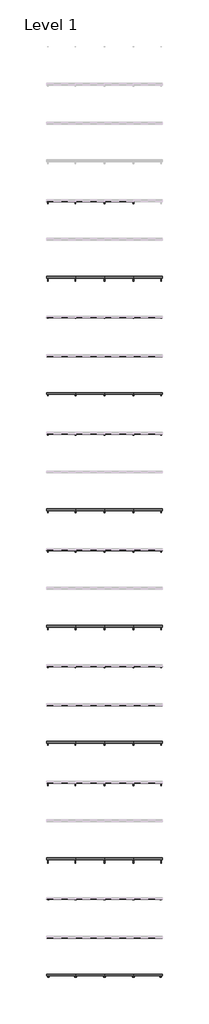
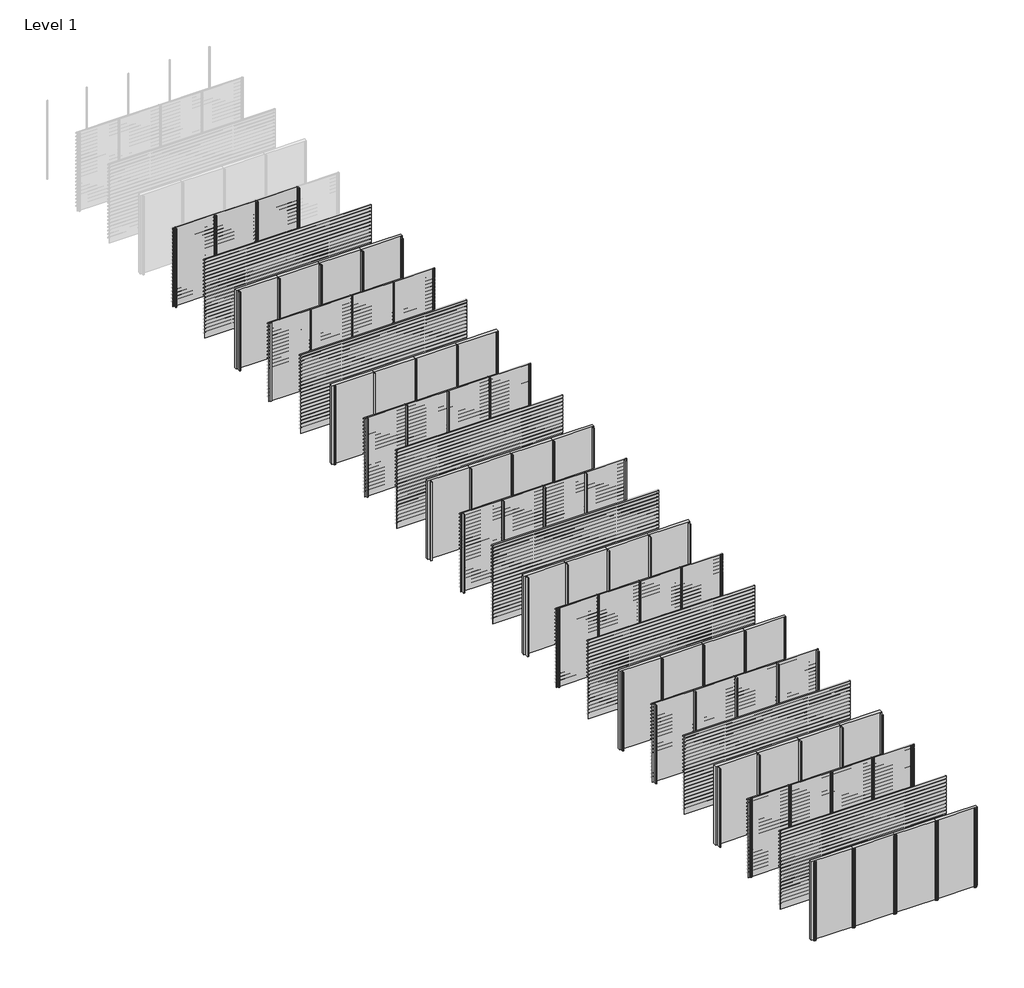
# One storey, part 1 of 57: 69 members, 62 plates.
"""IFC4 building model written with IfcOpenShell, lengths in millimetres."""

from ifc_helpers import new_model, si_unit, origin, origin_with_axes, place, context, project, spatial, polyline, outline, extrude, transform, mapped, element, save
from components import rectangular_mullion_fb497acc, rectangular_mullion_3facce28, rectangular_mullion_6cf2c509, rectangular_mullion_8b77bd57, rectangular_mullion_2c867e25, rectangular_mullion_7803f5c4, rectangular_mullion_82152e2f, rectangular_mullion_bd250e2e, rectangular_mullion_7b49c8f1, rectangular_mullion_2b84ad7e, rectangular_mullion_0fd695e7, rectangular_mullion_9b796d85, rectangular_mullion_dfb17e98, rectangular_mullion_6132f1f1, rectangular_mullion_8f153c19, rectangular_mullion_5b30f3fd, rectangular_mullion_5e0e8e0a, rectangular_mullion_d2d38772, rectangular_mullion_efb80f74, rectangular_mullion_aaa1fb1b, rectangular_mullion_ea9d012c, empty_system_panel_empty_413cb92e

model = new_model("IFC4")

# Units and contexts
model_context = context("Model", 3, world=origin())
ifc_project = project(units=[si_unit("LENGTHUNIT", "METRE", prefix="MILLI")], contexts=[model_context])

# Site, building, storey
site = spatial("IfcSite", under=ifc_project)
building = spatial("IfcBuilding", under=site)
storey = spatial("IfcBuildingStorey", under=building, Name="Level 1", Elevation=0.0)

# Members
placement = place(None, origin())
rectangular_mullion_shape = rectangular_mullion_fb497acc(model_context)
element("IfcMember", 1, ObjectType="Rectangular Mullion : NLRS_21_CWM_drager LD.0995_Storax", at=placement, inside=storey, context=model_context, shape_type="MappedRepresentation", body=[
    mapped(rectangular_mullion_shape, transform((4500.0, -18000.0, 0.0), x_axis=(-1.0, 0.0, 0.0), y_axis=(0.0, 1.0, 0.0), z_axis=(0.0, 0.0, -1.0))),
])
element("IfcMember", 2, ObjectType="Rectangular Mullion : NLRS_21_CWM_drager LD.0995_Storax", at=placement, inside=storey, context=model_context, shape_type="MappedRepresentation", body=[
    mapped(rectangular_mullion_shape, transform((3000.0, -18000.0, 0.0), x_axis=(-1.0, 0.0, 0.0), y_axis=(0.0, 1.0, 0.0), z_axis=(0.0, 0.0, -1.0))),
])
element("IfcMember", 3, ObjectType="Rectangular Mullion : NLRS_21_CWM_drager LD.0995_Storax", at=placement, inside=storey, context=model_context, shape_type="MappedRepresentation", body=[
    mapped(rectangular_mullion_shape, transform((1500.0, -18000.0, 0.0), x_axis=(-1.0, 0.0, 0.0), y_axis=(0.0, 1.0, 0.0), z_axis=(0.0, 0.0, -1.0))),
])
element("IfcMember", 4, ObjectType="Rectangular Mullion : NLRS_21_CWM_drager LD.0995_Storax", at=placement, inside=storey, context=model_context, shape_type="MappedRepresentation", body=[
    mapped(rectangular_mullion_shape, transform((4500.0, -22000.0, 0.0), x_axis=(-1.0, 0.0, 0.0), y_axis=(0.0, 1.0, 0.0), z_axis=(0.0, 0.0, -1.0))),
])
element("IfcMember", 5, ObjectType="Rectangular Mullion : NLRS_21_CWM_drager LD.0995_Storax", at=placement, inside=storey, context=model_context, shape_type="MappedRepresentation", body=[
    mapped(rectangular_mullion_shape, transform((3000.0, -22000.0, 0.0), x_axis=(-1.0, 0.0, 0.0), y_axis=(0.0, 1.0, 0.0), z_axis=(0.0, 0.0, -1.0))),
])
element("IfcMember", 6, ObjectType="Rectangular Mullion : NLRS_21_CWM_drager LD.0995_Storax", at=placement, inside=storey, context=model_context, shape_type="MappedRepresentation", body=[
    mapped(rectangular_mullion_shape, transform((1500.0, -22000.0, 0.0), x_axis=(-1.0, 0.0, 0.0), y_axis=(0.0, 1.0, 0.0), z_axis=(0.0, 0.0, -1.0))),
])
rectangular_mullion_2_shape = rectangular_mullion_3facce28(model_context)
element("IfcMember", 7, ObjectType="Rectangular Mullion : NLRS_21_CWM_drager SD.014_Storax", at=placement, inside=storey, context=model_context, shape_type="MappedRepresentation", body=[
    mapped(rectangular_mullion_2_shape, transform((4500.0, -24000.0, 0.0), x_axis=(-1.0, 0.0, 0.0), y_axis=(0.0, 1.0, 0.0), z_axis=(0.0, 0.0, -1.0))),
])
element("IfcMember", 8, ObjectType="Rectangular Mullion : NLRS_21_CWM_drager SD.014_Storax", at=placement, inside=storey, context=model_context, shape_type="MappedRepresentation", body=[
    mapped(rectangular_mullion_2_shape, transform((3000.0, -24000.0, 0.0), x_axis=(-1.0, 0.0, 0.0), y_axis=(0.0, 1.0, 0.0), z_axis=(0.0, 0.0, -1.0))),
])
element("IfcMember", 9, ObjectType="Rectangular Mullion : NLRS_21_CWM_drager SD.014_Storax", at=placement, inside=storey, context=model_context, shape_type="MappedRepresentation", body=[
    mapped(rectangular_mullion_2_shape, transform((1500.0, -24000.0, 0.0), x_axis=(-1.0, 0.0, 0.0), y_axis=(0.0, 1.0, 0.0), z_axis=(0.0, 0.0, -1.0))),
])
element("IfcMember", 10, ObjectType="Rectangular Mullion : NLRS_21_CWM_drager SD.014_Storax", at=placement, inside=storey, context=model_context, shape_type="MappedRepresentation", body=[
    mapped(rectangular_mullion_2_shape, transform((4500.0, -28000.0, 0.0), x_axis=(-1.0, 0.0, 0.0), y_axis=(0.0, 1.0, 0.0), z_axis=(0.0, 0.0, -1.0))),
])
element("IfcMember", 11, ObjectType="Rectangular Mullion : NLRS_21_CWM_drager SD.014_Storax", at=placement, inside=storey, context=model_context, shape_type="MappedRepresentation", body=[
    mapped(rectangular_mullion_2_shape, transform((3000.0, -28000.0, 0.0), x_axis=(-1.0, 0.0, 0.0), y_axis=(0.0, 1.0, 0.0), z_axis=(0.0, 0.0, -1.0))),
])
element("IfcMember", 12, ObjectType="Rectangular Mullion : NLRS_21_CWM_drager SD.014_Storax", at=placement, inside=storey, context=model_context, shape_type="MappedRepresentation", body=[
    mapped(rectangular_mullion_2_shape, transform((1500.0, -28000.0, 0.0), x_axis=(-1.0, 0.0, 0.0), y_axis=(0.0, 1.0, 0.0), z_axis=(0.0, 0.0, -1.0))),
])
rectangular_mullion_3_shape = rectangular_mullion_6cf2c509(model_context)
element("IfcMember", 13, ObjectType="Rectangular Mullion : NLRS_21_CWM_drager SD.054_Storax", at=placement, inside=storey, context=model_context, shape_type="MappedRepresentation", body=[
    mapped(rectangular_mullion_3_shape, transform((4500.0, -30000.0, 0.0), x_axis=(-1.0, 0.0, 0.0), y_axis=(0.0, 1.0, 0.0), z_axis=(0.0, 0.0, -1.0))),
])
element("IfcMember", 14, ObjectType="Rectangular Mullion : NLRS_21_CWM_drager SD.054_Storax", at=placement, inside=storey, context=model_context, shape_type="MappedRepresentation", body=[
    mapped(rectangular_mullion_3_shape, transform((3000.0, -30000.0, 0.0), x_axis=(-1.0, 0.0, 0.0), y_axis=(0.0, 1.0, 0.0), z_axis=(0.0, 0.0, -1.0))),
])
element("IfcMember", 15, ObjectType="Rectangular Mullion : NLRS_21_CWM_drager SD.054_Storax", at=placement, inside=storey, context=model_context, shape_type="MappedRepresentation", body=[
    mapped(rectangular_mullion_3_shape, transform((1500.0, -30000.0, 0.0), x_axis=(-1.0, 0.0, 0.0), y_axis=(0.0, 1.0, 0.0), z_axis=(0.0, 0.0, -1.0))),
])
element("IfcMember", 16, ObjectType="Rectangular Mullion : NLRS_21_CWM_drager SD.054_Storax", at=placement, inside=storey, context=model_context, shape_type="MappedRepresentation", body=[
    mapped(rectangular_mullion_3_shape, transform((4500.0, -34000.0, 0.0), x_axis=(-1.0, 0.0, 0.0), y_axis=(0.0, 1.0, 0.0), z_axis=(0.0, 0.0, -1.0))),
])
element("IfcMember", 17, ObjectType="Rectangular Mullion : NLRS_21_CWM_drager SD.054_Storax", at=placement, inside=storey, context=model_context, shape_type="MappedRepresentation", body=[
    mapped(rectangular_mullion_3_shape, transform((3000.0, -34000.0, 0.0), x_axis=(-1.0, 0.0, 0.0), y_axis=(0.0, 1.0, 0.0), z_axis=(0.0, 0.0, -1.0))),
])
element("IfcMember", 18, ObjectType="Rectangular Mullion : NLRS_21_CWM_drager SD.054_Storax", at=placement, inside=storey, context=model_context, shape_type="MappedRepresentation", body=[
    mapped(rectangular_mullion_3_shape, transform((1500.0, -34000.0, 0.0), x_axis=(-1.0, 0.0, 0.0), y_axis=(0.0, 1.0, 0.0), z_axis=(0.0, 0.0, -1.0))),
])
rectangular_mullion_4_shape = rectangular_mullion_8b77bd57(model_context)
element("IfcMember", 19, ObjectType="Rectangular Mullion : NLRS_21_CWM_drager SD.100_Storax", at=placement, inside=storey, context=model_context, shape_type="MappedRepresentation", body=[
    mapped(rectangular_mullion_4_shape, transform((4500.0, -36000.0, 0.0), x_axis=(-1.0, 0.0, 0.0), y_axis=(0.0, 1.0, 0.0), z_axis=(0.0, 0.0, -1.0))),
])
element("IfcMember", 20, ObjectType="Rectangular Mullion : NLRS_21_CWM_drager SD.100_Storax", at=placement, inside=storey, context=model_context, shape_type="MappedRepresentation", body=[
    mapped(rectangular_mullion_4_shape, transform((3000.0, -36000.0, 0.0), x_axis=(-1.0, 0.0, 0.0), y_axis=(0.0, 1.0, 0.0), z_axis=(0.0, 0.0, -1.0))),
])
element("IfcMember", 21, ObjectType="Rectangular Mullion : NLRS_21_CWM_drager SD.100_Storax", at=placement, inside=storey, context=model_context, shape_type="MappedRepresentation", body=[
    mapped(rectangular_mullion_4_shape, transform((1500.0, -36000.0, 0.0), x_axis=(-1.0, 0.0, 0.0), y_axis=(0.0, 1.0, 0.0), z_axis=(0.0, 0.0, -1.0))),
])
element("IfcMember", 22, ObjectType="Rectangular Mullion : NLRS_21_CWM_drager SD.100_Storax", at=placement, inside=storey, context=model_context, shape_type="MappedRepresentation", body=[
    mapped(rectangular_mullion_4_shape, transform((4500.0, -40000.0, 0.0), x_axis=(-1.0, 0.0, 0.0), y_axis=(0.0, 1.0, 0.0), z_axis=(0.0, 0.0, -1.0))),
])
element("IfcMember", 23, ObjectType="Rectangular Mullion : NLRS_21_CWM_drager SD.100_Storax", at=placement, inside=storey, context=model_context, shape_type="MappedRepresentation", body=[
    mapped(rectangular_mullion_4_shape, transform((3000.0, -40000.0, 0.0), x_axis=(-1.0, 0.0, 0.0), y_axis=(0.0, 1.0, 0.0), z_axis=(0.0, 0.0, -1.0))),
])
element("IfcMember", 24, ObjectType="Rectangular Mullion : NLRS_21_CWM_drager SD.100_Storax", at=placement, inside=storey, context=model_context, shape_type="MappedRepresentation", body=[
    mapped(rectangular_mullion_4_shape, transform((1500.0, -40000.0, 0.0), x_axis=(-1.0, 0.0, 0.0), y_axis=(0.0, 1.0, 0.0), z_axis=(0.0, 0.0, -1.0))),
])
rectangular_mullion_5_shape = rectangular_mullion_2c867e25(model_context)
element("IfcMember", 25, ObjectType="Rectangular Mullion : NLRS_21_CWM_drager LD.0440_Storax", at=placement, inside=storey, context=model_context, shape_type="MappedRepresentation", body=[
    mapped(rectangular_mullion_5_shape, transform((4500.0, -42000.0, 0.0), x_axis=(-1.0, 0.0, 0.0), y_axis=(0.0, 1.0, 0.0), z_axis=(0.0, 0.0, -1.0))),
])
element("IfcMember", 26, ObjectType="Rectangular Mullion : NLRS_21_CWM_drager LD.0440_Storax", at=placement, inside=storey, context=model_context, shape_type="MappedRepresentation", body=[
    mapped(rectangular_mullion_5_shape, transform((3000.0, -42000.0, 0.0), x_axis=(-1.0, 0.0, 0.0), y_axis=(0.0, 1.0, 0.0), z_axis=(0.0, 0.0, -1.0))),
])
element("IfcMember", 27, ObjectType="Rectangular Mullion : NLRS_21_CWM_drager LD.0440_Storax", at=placement, inside=storey, context=model_context, shape_type="MappedRepresentation", body=[
    mapped(rectangular_mullion_5_shape, transform((1500.0, -42000.0, 0.0), x_axis=(-1.0, 0.0, 0.0), y_axis=(0.0, 1.0, 0.0), z_axis=(0.0, 0.0, -1.0))),
])
element("IfcMember", 28, ObjectType="Rectangular Mullion : NLRS_21_CWM_drager LD.0440_Storax", at=placement, inside=storey, context=model_context, shape_type="MappedRepresentation", body=[
    mapped(rectangular_mullion_5_shape, transform((4500.0, -46000.0, 0.0), x_axis=(-1.0, 0.0, 0.0), y_axis=(0.0, 1.0, 0.0), z_axis=(0.0, 0.0, -1.0))),
])
element("IfcMember", 29, ObjectType="Rectangular Mullion : NLRS_21_CWM_drager LD.0440_Storax", at=placement, inside=storey, context=model_context, shape_type="MappedRepresentation", body=[
    mapped(rectangular_mullion_5_shape, transform((3000.0, -46000.0, 0.0), x_axis=(-1.0, 0.0, 0.0), y_axis=(0.0, 1.0, 0.0), z_axis=(0.0, 0.0, -1.0))),
])
element("IfcMember", 30, ObjectType="Rectangular Mullion : NLRS_21_CWM_drager LD.0440_Storax", at=placement, inside=storey, context=model_context, shape_type="MappedRepresentation", body=[
    mapped(rectangular_mullion_5_shape, transform((1500.0, -46000.0, 0.0), x_axis=(-1.0, 0.0, 0.0), y_axis=(0.0, 1.0, 0.0), z_axis=(0.0, 0.0, -1.0))),
])
rectangular_mullion_6_shape = rectangular_mullion_7803f5c4(model_context)
element("IfcMember", 31, ObjectType="Rectangular Mullion : NLRS_21_CWM_drager LD.1250_Storax", at=placement, inside=storey, context=model_context, shape_type="MappedRepresentation", body=[
    mapped(rectangular_mullion_6_shape, transform((4500.0, -48000.0, 0.0), x_axis=(-1.0, 0.0, 0.0), y_axis=(0.0, 1.0, 0.0), z_axis=(0.0, 0.0, -1.0))),
])
element("IfcMember", 32, ObjectType="Rectangular Mullion : NLRS_21_CWM_drager LD.1250_Storax", at=placement, inside=storey, context=model_context, shape_type="MappedRepresentation", body=[
    mapped(rectangular_mullion_6_shape, transform((3000.0, -48000.0, 0.0), x_axis=(-1.0, 0.0, 0.0), y_axis=(0.0, 1.0, 0.0), z_axis=(0.0, 0.0, -1.0))),
])
element("IfcMember", 33, ObjectType="Rectangular Mullion : NLRS_21_CWM_drager LD.1250_Storax", at=placement, inside=storey, context=model_context, shape_type="MappedRepresentation", body=[
    mapped(rectangular_mullion_6_shape, transform((1500.0, -48000.0, 0.0), x_axis=(-1.0, 0.0, 0.0), y_axis=(0.0, 1.0, 0.0), z_axis=(0.0, 0.0, -1.0))),
])
element("IfcMember", 34, ObjectType="Rectangular Mullion : NLRS_21_CWM_drager LD.1250_Storax", at=placement, inside=storey, context=model_context, shape_type="MappedRepresentation", body=[
    mapped(rectangular_mullion_6_shape, transform((4500.0, -52000.0, 0.0), x_axis=(-1.0, 0.0, 0.0), y_axis=(0.0, 1.0, 0.0), z_axis=(0.0, 0.0, -1.0))),
])
element("IfcMember", 35, ObjectType="Rectangular Mullion : NLRS_21_CWM_drager LD.1250_Storax", at=placement, inside=storey, context=model_context, shape_type="MappedRepresentation", body=[
    mapped(rectangular_mullion_6_shape, transform((3000.0, -52000.0, 0.0), x_axis=(-1.0, 0.0, 0.0), y_axis=(0.0, 1.0, 0.0), z_axis=(0.0, 0.0, -1.0))),
])
element("IfcMember", 36, ObjectType="Rectangular Mullion : NLRS_21_CWM_drager LD.1250_Storax", at=placement, inside=storey, context=model_context, shape_type="MappedRepresentation", body=[
    mapped(rectangular_mullion_6_shape, transform((1500.0, -52000.0, 0.0), x_axis=(-1.0, 0.0, 0.0), y_axis=(0.0, 1.0, 0.0), z_axis=(0.0, 0.0, -1.0))),
])
rectangular_mullion_7_shape = rectangular_mullion_82152e2f(model_context)
element("IfcMember", 37, ObjectType="Rectangular Mullion : NLRS_21_CWM_drager LD.0240_Storax", at=placement, inside=storey, context=model_context, shape_type="MappedRepresentation", body=[
    mapped(rectangular_mullion_7_shape, transform((4500.0, -54000.0, 0.0), x_axis=(-1.0, 0.0, 0.0), y_axis=(0.0, 1.0, 0.0), z_axis=(0.0, 0.0, -1.0))),
])
element("IfcMember", 38, ObjectType="Rectangular Mullion : NLRS_21_CWM_drager LD.0240_Storax", at=placement, inside=storey, context=model_context, shape_type="MappedRepresentation", body=[
    mapped(rectangular_mullion_7_shape, transform((3000.0, -54000.0, 0.0), x_axis=(-1.0, 0.0, 0.0), y_axis=(0.0, 1.0, 0.0), z_axis=(0.0, 0.0, -1.0))),
])
element("IfcMember", 39, ObjectType="Rectangular Mullion : NLRS_21_CWM_drager LD.0240_Storax", at=placement, inside=storey, context=model_context, shape_type="MappedRepresentation", body=[
    mapped(rectangular_mullion_7_shape, transform((1500.0, -54000.0, 0.0), x_axis=(-1.0, 0.0, 0.0), y_axis=(0.0, 1.0, 0.0), z_axis=(0.0, 0.0, -1.0))),
])
element("IfcMember", 40, ObjectType="Rectangular Mullion : NLRS_21_CWM_drager LD.0240_Storax", at=placement, inside=storey, context=model_context, shape_type="MappedRepresentation", body=[
    mapped(rectangular_mullion_7_shape, transform((4500.0, -58000.0, 0.0), x_axis=(-1.0, 0.0, 0.0), y_axis=(0.0, 1.0, 0.0), z_axis=(0.0, 0.0, -1.0))),
])
element("IfcMember", 41, ObjectType="Rectangular Mullion : NLRS_21_CWM_drager LD.0240_Storax", at=placement, inside=storey, context=model_context, shape_type="MappedRepresentation", body=[
    mapped(rectangular_mullion_7_shape, transform((3000.0, -58000.0, 0.0), x_axis=(-1.0, 0.0, 0.0), y_axis=(0.0, 1.0, 0.0), z_axis=(0.0, 0.0, -1.0))),
])
element("IfcMember", 42, ObjectType="Rectangular Mullion : NLRS_21_CWM_drager LD.0240_Storax", at=placement, inside=storey, context=model_context, shape_type="MappedRepresentation", body=[
    mapped(rectangular_mullion_7_shape, transform((1500.0, -58000.0, 0.0), x_axis=(-1.0, 0.0, 0.0), y_axis=(0.0, 1.0, 0.0), z_axis=(0.0, 0.0, -1.0))),
])
rectangular_mullion_8_shape = rectangular_mullion_bd250e2e(model_context)
element("IfcMember", 43, ObjectType="Rectangular Mullion : NLRS_21_CWM_drager LD.0995 - links_Storax", at=placement, inside=storey, context=model_context, shape_type="MappedRepresentation", body=[
    mapped(rectangular_mullion_8_shape, transform((0.0, -18000.0, 0.0), x_axis=(-1.0, 0.0, 0.0), y_axis=(0.0, 1.0, 0.0), z_axis=(0.0, 0.0, -1.0))),
])
element("IfcMember", 44, ObjectType="Rectangular Mullion : NLRS_21_CWM_drager LD.0995 - links_Storax", at=placement, inside=storey, context=model_context, shape_type="MappedRepresentation", body=[
    mapped(rectangular_mullion_8_shape, transform((0.0, -22000.0, 0.0), x_axis=(-1.0, 0.0, 0.0), y_axis=(0.0, 1.0, 0.0), z_axis=(0.0, 0.0, -1.0))),
])
rectangular_mullion_9_shape = rectangular_mullion_7b49c8f1(model_context)
element("IfcMember", 45, ObjectType="Rectangular Mullion : NLRS_21_CWM_drager LD.0995 - rechts_Storax", at=placement, inside=storey, context=model_context, shape_type="MappedRepresentation", body=[
    mapped(rectangular_mullion_9_shape, transform((6000.0, -22000.0, 3000.0), x_axis=(1.0, 0.0, 0.0), y_axis=(0.0, 1.0, 0.0), z_axis=(0.0, 0.0, 1.0))),
])
rectangular_mullion_10_shape = rectangular_mullion_2b84ad7e(model_context)
element("IfcMember", 46, ObjectType="Rectangular Mullion : NLRS_21_CWM_drager SD.014 - links_Storax", at=placement, inside=storey, context=model_context, shape_type="MappedRepresentation", body=[
    mapped(rectangular_mullion_10_shape, transform((0.0, -24000.0, 0.0), x_axis=(-1.0, 0.0, 0.0), y_axis=(0.0, 1.0, 0.0), z_axis=(0.0, 0.0, -1.0))),
])
element("IfcMember", 47, ObjectType="Rectangular Mullion : NLRS_21_CWM_drager SD.014 - links_Storax", at=placement, inside=storey, context=model_context, shape_type="MappedRepresentation", body=[
    mapped(rectangular_mullion_10_shape, transform((0.0, -28000.0, 0.0), x_axis=(-1.0, 0.0, 0.0), y_axis=(0.0, 1.0, 0.0), z_axis=(0.0, 0.0, -1.0))),
])
rectangular_mullion_11_shape = rectangular_mullion_0fd695e7(model_context)
element("IfcMember", 48, ObjectType="Rectangular Mullion : NLRS_21_CWM_drager SD.014 - rechts_Storax", at=placement, inside=storey, context=model_context, shape_type="MappedRepresentation", body=[
    mapped(rectangular_mullion_11_shape, transform((6000.0, -24000.0, 3000.0), x_axis=(1.0, 0.0, 0.0), y_axis=(0.0, 1.0, 0.0), z_axis=(0.0, 0.0, 1.0))),
])
element("IfcMember", 49, ObjectType="Rectangular Mullion : NLRS_21_CWM_drager SD.014 - rechts_Storax", at=placement, inside=storey, context=model_context, shape_type="MappedRepresentation", body=[
    mapped(rectangular_mullion_11_shape, transform((6000.0, -28000.0, 3000.0), x_axis=(1.0, 0.0, 0.0), y_axis=(0.0, 1.0, 0.0), z_axis=(0.0, 0.0, 1.0))),
])
rectangular_mullion_12_shape = rectangular_mullion_9b796d85(model_context)
element("IfcMember", 50, ObjectType="Rectangular Mullion : NLRS_21_CWM_drager SD.054 - links_Storax", at=placement, inside=storey, context=model_context, shape_type="MappedRepresentation", body=[
    mapped(rectangular_mullion_12_shape, transform((0.0, -30000.0, 0.0), x_axis=(-1.0, 0.0, 0.0), y_axis=(0.0, 1.0, 0.0), z_axis=(0.0, 0.0, -1.0))),
])
element("IfcMember", 51, ObjectType="Rectangular Mullion : NLRS_21_CWM_drager SD.054 - links_Storax", at=placement, inside=storey, context=model_context, shape_type="MappedRepresentation", body=[
    mapped(rectangular_mullion_12_shape, transform((0.0, -34000.0, 0.0), x_axis=(-1.0, 0.0, 0.0), y_axis=(0.0, 1.0, 0.0), z_axis=(0.0, 0.0, -1.0))),
])
rectangular_mullion_13_shape = rectangular_mullion_dfb17e98(model_context)
element("IfcMember", 52, ObjectType="Rectangular Mullion : NLRS_21_CWM_drager SD.054 - rechts_Storax", at=placement, inside=storey, context=model_context, shape_type="MappedRepresentation", body=[
    mapped(rectangular_mullion_13_shape, transform((6000.0, -30000.0, 3000.0), x_axis=(1.0, 0.0, 0.0), y_axis=(0.0, 1.0, 0.0), z_axis=(0.0, 0.0, 1.0))),
])
element("IfcMember", 53, ObjectType="Rectangular Mullion : NLRS_21_CWM_drager SD.054 - rechts_Storax", at=placement, inside=storey, context=model_context, shape_type="MappedRepresentation", body=[
    mapped(rectangular_mullion_13_shape, transform((6000.0, -34000.0, 3000.0), x_axis=(1.0, 0.0, 0.0), y_axis=(0.0, 1.0, 0.0), z_axis=(0.0, 0.0, 1.0))),
])
rectangular_mullion_14_shape = rectangular_mullion_6132f1f1(model_context)
element("IfcMember", 54, ObjectType="Rectangular Mullion : NLRS_21_CWM_drager SD.100 - links_Storax", at=placement, inside=storey, context=model_context, shape_type="MappedRepresentation", body=[
    mapped(rectangular_mullion_14_shape, transform((0.0, -36000.0, 0.0), x_axis=(-1.0, 0.0, 0.0), y_axis=(0.0, 1.0, 0.0), z_axis=(0.0, 0.0, -1.0))),
])
element("IfcMember", 55, ObjectType="Rectangular Mullion : NLRS_21_CWM_drager SD.100 - links_Storax", at=placement, inside=storey, context=model_context, shape_type="MappedRepresentation", body=[
    mapped(rectangular_mullion_14_shape, transform((0.0, -40000.0, 0.0), x_axis=(-1.0, 0.0, 0.0), y_axis=(0.0, 1.0, 0.0), z_axis=(0.0, 0.0, -1.0))),
])
rectangular_mullion_15_shape = rectangular_mullion_8f153c19(model_context)
element("IfcMember", 56, ObjectType="Rectangular Mullion : NLRS_21_CWM_drager SD.100 - rechts_Storax", at=placement, inside=storey, context=model_context, shape_type="MappedRepresentation", body=[
    mapped(rectangular_mullion_15_shape, transform((6000.0, -36000.0, 3000.0), x_axis=(1.0, 0.0, 0.0), y_axis=(0.0, 1.0, 0.0), z_axis=(0.0, 0.0, 1.0))),
])
element("IfcMember", 57, ObjectType="Rectangular Mullion : NLRS_21_CWM_drager SD.100 - rechts_Storax", at=placement, inside=storey, context=model_context, shape_type="MappedRepresentation", body=[
    mapped(rectangular_mullion_15_shape, transform((6000.0, -40000.0, 3000.0), x_axis=(1.0, 0.0, 0.0), y_axis=(0.0, 1.0, 0.0), z_axis=(0.0, 0.0, 1.0))),
])
rectangular_mullion_16_shape = rectangular_mullion_5b30f3fd(model_context)
element("IfcMember", 58, ObjectType="Rectangular Mullion : NLRS_21_CWM_drager LD.0440 - links_Storax", at=placement, inside=storey, context=model_context, shape_type="MappedRepresentation", body=[
    mapped(rectangular_mullion_16_shape, transform((0.0, -42000.0, 0.0), x_axis=(-1.0, 0.0, 0.0), y_axis=(0.0, 1.0, 0.0), z_axis=(0.0, 0.0, -1.0))),
])
element("IfcMember", 59, ObjectType="Rectangular Mullion : NLRS_21_CWM_drager LD.0440 - links_Storax", at=placement, inside=storey, context=model_context, shape_type="MappedRepresentation", body=[
    mapped(rectangular_mullion_16_shape, transform((0.0, -46000.0, 0.0), x_axis=(-1.0, 0.0, 0.0), y_axis=(0.0, 1.0, 0.0), z_axis=(0.0, 0.0, -1.0))),
])
rectangular_mullion_17_shape = rectangular_mullion_5e0e8e0a(model_context)
element("IfcMember", 60, ObjectType="Rectangular Mullion : NLRS_21_CWM_drager LD.0440 - rechts_Storax", at=placement, inside=storey, context=model_context, shape_type="MappedRepresentation", body=[
    mapped(rectangular_mullion_17_shape, transform((6000.0, -42000.0, 3000.0), x_axis=(1.0, 0.0, 0.0), y_axis=(0.0, 1.0, 0.0), z_axis=(0.0, 0.0, 1.0))),
])
element("IfcMember", 61, ObjectType="Rectangular Mullion : NLRS_21_CWM_drager LD.0440 - rechts_Storax", at=placement, inside=storey, context=model_context, shape_type="MappedRepresentation", body=[
    mapped(rectangular_mullion_17_shape, transform((6000.0, -46000.0, 3000.0), x_axis=(1.0, 0.0, 0.0), y_axis=(0.0, 1.0, 0.0), z_axis=(0.0, 0.0, 1.0))),
])
rectangular_mullion_18_shape = rectangular_mullion_d2d38772(model_context)
element("IfcMember", 62, ObjectType="Rectangular Mullion : NLRS_21_CWM_drager LD.1250 - links_Storax", at=placement, inside=storey, context=model_context, shape_type="MappedRepresentation", body=[
    mapped(rectangular_mullion_18_shape, transform((0.0, -48000.0, 0.0), x_axis=(-1.0, 0.0, 0.0), y_axis=(0.0, 1.0, 0.0), z_axis=(0.0, 0.0, -1.0))),
])
element("IfcMember", 63, ObjectType="Rectangular Mullion : NLRS_21_CWM_drager LD.1250 - links_Storax", at=placement, inside=storey, context=model_context, shape_type="MappedRepresentation", body=[
    mapped(rectangular_mullion_18_shape, transform((0.0, -52000.0, 0.0), x_axis=(-1.0, 0.0, 0.0), y_axis=(0.0, 1.0, 0.0), z_axis=(0.0, 0.0, -1.0))),
])
rectangular_mullion_19_shape = rectangular_mullion_efb80f74(model_context)
element("IfcMember", 64, ObjectType="Rectangular Mullion : NLRS_21_CWM_drager LD.1250 - rechts_Storax", at=placement, inside=storey, context=model_context, shape_type="MappedRepresentation", body=[
    mapped(rectangular_mullion_19_shape, transform((6000.0, -48000.0, 3000.0), x_axis=(1.0, 0.0, 0.0), y_axis=(0.0, 1.0, 0.0), z_axis=(0.0, 0.0, 1.0))),
])
element("IfcMember", 65, ObjectType="Rectangular Mullion : NLRS_21_CWM_drager LD.1250 - rechts_Storax", at=placement, inside=storey, context=model_context, shape_type="MappedRepresentation", body=[
    mapped(rectangular_mullion_19_shape, transform((6000.0, -52000.0, 3000.0), x_axis=(1.0, 0.0, 0.0), y_axis=(0.0, 1.0, 0.0), z_axis=(0.0, 0.0, 1.0))),
])
rectangular_mullion_20_shape = rectangular_mullion_aaa1fb1b(model_context)
element("IfcMember", 66, ObjectType="Rectangular Mullion : NLRS_21_CWM_drager LD.0240 - links_Storax", at=placement, inside=storey, context=model_context, shape_type="MappedRepresentation", body=[
    mapped(rectangular_mullion_20_shape, transform((0.0, -54000.0, 0.0), x_axis=(-1.0, 0.0, 0.0), y_axis=(0.0, 1.0, 0.0), z_axis=(0.0, 0.0, -1.0))),
])
element("IfcMember", 67, ObjectType="Rectangular Mullion : NLRS_21_CWM_drager LD.0240 - links_Storax", at=placement, inside=storey, context=model_context, shape_type="MappedRepresentation", body=[
    mapped(rectangular_mullion_20_shape, transform((0.0, -58000.0, 0.0), x_axis=(-1.0, 0.0, 0.0), y_axis=(0.0, 1.0, 0.0), z_axis=(0.0, 0.0, -1.0))),
])
rectangular_mullion_21_shape = rectangular_mullion_ea9d012c(model_context)
element("IfcMember", 68, ObjectType="Rectangular Mullion : NLRS_21_CWM_drager LD.0240 - rechts_Storax", at=placement, inside=storey, context=model_context, shape_type="MappedRepresentation", body=[
    mapped(rectangular_mullion_21_shape, transform((6000.0, -54000.0, 3000.0), x_axis=(1.0, 0.0, 0.0), y_axis=(0.0, 1.0, 0.0), z_axis=(0.0, 0.0, 1.0))),
])
element("IfcMember", 69, ObjectType="Rectangular Mullion : NLRS_21_CWM_drager LD.0240 - rechts_Storax", at=placement, inside=storey, context=model_context, shape_type="MappedRepresentation", body=[
    mapped(rectangular_mullion_21_shape, transform((6000.0, -58000.0, 3000.0), x_axis=(1.0, 0.0, 0.0), y_axis=(0.0, 1.0, 0.0), z_axis=(0.0, 0.0, 1.0))),
])

# Plates
element("IfcPlate", 70, ObjectType="NLRS_21_WA_lamellenwand Linius - SE.130_Storax", at=placement, inside=storey, context=model_context, shape_type="SweptSolid", body=[
    extrude(outline(polyline([(0.0, -17999.0), (1500.0, -17999.0), (1500.0, -18001.0), (0.0, -18001.0), (0.0, -17999.0)])), origin_with_axes(), (0.0, 0.0, 1.0), 3000.0),
])
element("IfcPlate", 71, ObjectType="NLRS_21_WA_lamellenwand Linius - SE.130_Storax", at=placement, inside=storey, context=model_context, shape_type="SweptSolid", body=[
    extrude(outline(polyline([(1500.0, -17999.0), (3000.0, -17999.0), (3000.0, -18001.0), (1500.0, -18001.0), (1500.0, -17999.0)])), origin_with_axes(), (0.0, 0.0, 1.0), 3000.0),
])
element("IfcPlate", 72, ObjectType="NLRS_21_WA_lamellenwand Linius - SE.130_Storax", at=placement, inside=storey, context=model_context, shape_type="SweptSolid", body=[
    extrude(outline(polyline([(3000.0, -17999.0), (4500.0, -17999.0), (4500.0, -18001.0), (3000.0, -18001.0), (3000.0, -17999.0)])), origin_with_axes(), (0.0, 0.0, 1.0), 3000.0),
])
element("IfcPlate", 73, ObjectType="NLRS_21_WA_lamellenwand Linius - SE.130_Storax", at=placement, inside=storey, context=model_context, shape_type="SweptSolid", body=[
    extrude(outline(polyline([(0.0, -19999.0), (6000.0, -19999.0), (6000.0, -20001.0), (0.0, -20001.0), (0.0, -19999.0)])), origin_with_axes(), (0.0, 0.0, 1.0), 3000.0),
])
element("IfcPlate", 74, ObjectType="NLRS_21_WA_lamellenwand Linius - SE.130_Storax", at=placement, inside=storey, context=model_context, shape_type="SweptSolid", body=[
    extrude(outline(polyline([(0.0, -23999.0), (1500.0, -23999.0), (1500.0, -24001.0), (0.0, -24001.0), (0.0, -23999.0)])), origin_with_axes(), (0.0, 0.0, 1.0), 3000.0),
])
element("IfcPlate", 75, ObjectType="NLRS_21_WA_lamellenwand Linius - SE.130_Storax", at=placement, inside=storey, context=model_context, shape_type="SweptSolid", body=[
    extrude(outline(polyline([(1500.0, -23999.0), (3000.0, -23999.0), (3000.0, -24001.0), (1500.0, -24001.0), (1500.0, -23999.0)])), origin_with_axes(), (0.0, 0.0, 1.0), 3000.0),
])
element("IfcPlate", 76, ObjectType="NLRS_21_WA_lamellenwand Linius - SE.130_Storax", at=placement, inside=storey, context=model_context, shape_type="SweptSolid", body=[
    extrude(outline(polyline([(3000.0, -23999.0), (4500.0, -23999.0), (4500.0, -24001.0), (3000.0, -24001.0), (3000.0, -23999.0)])), origin_with_axes(), (0.0, 0.0, 1.0), 3000.0),
])
element("IfcPlate", 77, ObjectType="NLRS_21_WA_lamellenwand Linius - SE.130_Storax", at=placement, inside=storey, context=model_context, shape_type="SweptSolid", body=[
    extrude(outline(polyline([(4500.0, -23999.0), (6000.0, -23999.0), (6000.0, -24001.0), (4500.0, -24001.0), (4500.0, -23999.0)])), origin_with_axes(), (0.0, 0.0, 1.0), 3000.0),
])
element("IfcPlate", 78, ObjectType="NLRS_21_WA_lamellenwand Linius - SE.130_Storax", at=placement, inside=storey, context=model_context, shape_type="SweptSolid", body=[
    extrude(outline(polyline([(0.0, -25999.0), (6000.0, -25999.0), (6000.0, -26001.0), (0.0, -26001.0), (0.0, -25999.0)])), origin_with_axes(), (0.0, 0.0, 1.0), 3000.0),
])
element("IfcPlate", 79, ObjectType="NLRS_21_WA_lamellenwand Linius - SE.130_Storax", at=placement, inside=storey, context=model_context, shape_type="SweptSolid", body=[
    extrude(outline(polyline([(0.0, -29999.0), (1500.0, -29999.0), (1500.0, -30001.0), (0.0, -30001.0), (0.0, -29999.0)])), origin_with_axes(), (0.0, 0.0, 1.0), 3000.0),
])
element("IfcPlate", 80, ObjectType="NLRS_21_WA_lamellenwand Linius - SE.130_Storax", at=placement, inside=storey, context=model_context, shape_type="SweptSolid", body=[
    extrude(outline(polyline([(1500.0, -29999.0), (3000.0, -29999.0), (3000.0, -30001.0), (1500.0, -30001.0), (1500.0, -29999.0)])), origin_with_axes(), (0.0, 0.0, 1.0), 3000.0),
])
element("IfcPlate", 81, ObjectType="NLRS_21_WA_lamellenwand Linius - SE.130_Storax", at=placement, inside=storey, context=model_context, shape_type="SweptSolid", body=[
    extrude(outline(polyline([(3000.0, -29999.0), (4500.0, -29999.0), (4500.0, -30001.0), (3000.0, -30001.0), (3000.0, -29999.0)])), origin_with_axes(), (0.0, 0.0, 1.0), 3000.0),
])
element("IfcPlate", 82, ObjectType="NLRS_21_WA_lamellenwand Linius - SE.130_Storax", at=placement, inside=storey, context=model_context, shape_type="SweptSolid", body=[
    extrude(outline(polyline([(4500.0, -29999.0), (6000.0, -29999.0), (6000.0, -30001.0), (4500.0, -30001.0), (4500.0, -29999.0)])), origin_with_axes(), (0.0, 0.0, 1.0), 3000.0),
])
element("IfcPlate", 83, ObjectType="NLRS_21_WA_lamellenwand Linius - SE.130_Storax", at=placement, inside=storey, context=model_context, shape_type="SweptSolid", body=[
    extrude(outline(polyline([(0.0, -31999.0), (6000.0, -31999.0), (6000.0, -32001.0), (0.0, -32001.0), (0.0, -31999.0)])), origin_with_axes(), (0.0, 0.0, 1.0), 3000.0),
])
element("IfcPlate", 84, ObjectType="NLRS_21_WA_lamellenwand Linius - SE.130_Storax", at=placement, inside=storey, context=model_context, shape_type="SweptSolid", body=[
    extrude(outline(polyline([(0.0, -35999.0), (1500.0, -35999.0), (1500.0, -36001.0), (0.0, -36001.0), (0.0, -35999.0)])), origin_with_axes(), (0.0, 0.0, 1.0), 3000.0),
])
element("IfcPlate", 85, ObjectType="NLRS_21_WA_lamellenwand Linius - SE.130_Storax", at=placement, inside=storey, context=model_context, shape_type="SweptSolid", body=[
    extrude(outline(polyline([(1500.0, -35999.0), (3000.0, -35999.0), (3000.0, -36001.0), (1500.0, -36001.0), (1500.0, -35999.0)])), origin_with_axes(), (0.0, 0.0, 1.0), 3000.0),
])
element("IfcPlate", 86, ObjectType="NLRS_21_WA_lamellenwand Linius - SE.130_Storax", at=placement, inside=storey, context=model_context, shape_type="SweptSolid", body=[
    extrude(outline(polyline([(3000.0, -35999.0), (4500.0, -35999.0), (4500.0, -36001.0), (3000.0, -36001.0), (3000.0, -35999.0)])), origin_with_axes(), (0.0, 0.0, 1.0), 3000.0),
])
element("IfcPlate", 87, ObjectType="NLRS_21_WA_lamellenwand Linius - SE.130_Storax", at=placement, inside=storey, context=model_context, shape_type="SweptSolid", body=[
    extrude(outline(polyline([(4500.0, -35999.0), (6000.0, -35999.0), (6000.0, -36001.0), (4500.0, -36001.0), (4500.0, -35999.0)])), origin_with_axes(), (0.0, 0.0, 1.0), 3000.0),
])
element("IfcPlate", 88, ObjectType="NLRS_21_WA_lamellenwand Linius - SE.130_Storax", at=placement, inside=storey, context=model_context, shape_type="SweptSolid", body=[
    extrude(outline(polyline([(0.0, -37999.0), (6000.0, -37999.0), (6000.0, -38001.0), (0.0, -38001.0), (0.0, -37999.0)])), origin_with_axes(), (0.0, 0.0, 1.0), 3000.0),
])
element("IfcPlate", 89, ObjectType="NLRS_21_WA_lamellenwand Linius - SE.130_Storax", at=placement, inside=storey, context=model_context, shape_type="SweptSolid", body=[
    extrude(outline(polyline([(0.0, -41999.0), (1500.0, -41999.0), (1500.0, -42001.0), (0.0, -42001.0), (0.0, -41999.0)])), origin_with_axes(), (0.0, 0.0, 1.0), 3000.0),
])
element("IfcPlate", 90, ObjectType="NLRS_21_WA_lamellenwand Linius - SE.130_Storax", at=placement, inside=storey, context=model_context, shape_type="SweptSolid", body=[
    extrude(outline(polyline([(1500.0, -41999.0), (3000.0, -41999.0), (3000.0, -42001.0), (1500.0, -42001.0), (1500.0, -41999.0)])), origin_with_axes(), (0.0, 0.0, 1.0), 3000.0),
])
element("IfcPlate", 91, ObjectType="NLRS_21_WA_lamellenwand Linius - SE.130_Storax", at=placement, inside=storey, context=model_context, shape_type="SweptSolid", body=[
    extrude(outline(polyline([(3000.0, -41999.0), (4500.0, -41999.0), (4500.0, -42001.0), (3000.0, -42001.0), (3000.0, -41999.0)])), origin_with_axes(), (0.0, 0.0, 1.0), 3000.0),
])
element("IfcPlate", 92, ObjectType="NLRS_21_WA_lamellenwand Linius - SE.130_Storax", at=placement, inside=storey, context=model_context, shape_type="SweptSolid", body=[
    extrude(outline(polyline([(4500.0, -41999.0), (6000.0, -41999.0), (6000.0, -42001.0), (4500.0, -42001.0), (4500.0, -41999.0)])), origin_with_axes(), (0.0, 0.0, 1.0), 3000.0),
])
element("IfcPlate", 93, ObjectType="NLRS_21_WA_lamellenwand Linius - SE.130_Storax", at=placement, inside=storey, context=model_context, shape_type="SweptSolid", body=[
    extrude(outline(polyline([(0.0, -43999.0), (6000.0, -43999.0), (6000.0, -44001.0), (0.0, -44001.0), (0.0, -43999.0)])), origin_with_axes(), (0.0, 0.0, 1.0), 3000.0),
])
element("IfcPlate", 94, ObjectType="NLRS_21_WA_lamellenwand Linius - SE.130_Storax", at=placement, inside=storey, context=model_context, shape_type="SweptSolid", body=[
    extrude(outline(polyline([(0.0, -47999.0), (1500.0, -47999.0), (1500.0, -48001.0), (0.0, -48001.0), (0.0, -47999.0)])), origin_with_axes(), (0.0, 0.0, 1.0), 3000.0),
])
element("IfcPlate", 95, ObjectType="NLRS_21_WA_lamellenwand Linius - SE.130_Storax", at=placement, inside=storey, context=model_context, shape_type="SweptSolid", body=[
    extrude(outline(polyline([(1500.0, -47999.0), (3000.0, -47999.0), (3000.0, -48001.0), (1500.0, -48001.0), (1500.0, -47999.0)])), origin_with_axes(), (0.0, 0.0, 1.0), 3000.0),
])
element("IfcPlate", 96, ObjectType="NLRS_21_WA_lamellenwand Linius - SE.130_Storax", at=placement, inside=storey, context=model_context, shape_type="SweptSolid", body=[
    extrude(outline(polyline([(3000.0, -47999.0), (4500.0, -47999.0), (4500.0, -48001.0), (3000.0, -48001.0), (3000.0, -47999.0)])), origin_with_axes(), (0.0, 0.0, 1.0), 3000.0),
])
element("IfcPlate", 97, ObjectType="NLRS_21_WA_lamellenwand Linius - SE.130_Storax", at=placement, inside=storey, context=model_context, shape_type="SweptSolid", body=[
    extrude(outline(polyline([(4500.0, -47999.0), (6000.0, -47999.0), (6000.0, -48001.0), (4500.0, -48001.0), (4500.0, -47999.0)])), origin_with_axes(), (0.0, 0.0, 1.0), 3000.0),
])
element("IfcPlate", 98, ObjectType="NLRS_21_WA_lamellenwand Linius - SE.130_Storax", at=placement, inside=storey, context=model_context, shape_type="SweptSolid", body=[
    extrude(outline(polyline([(0.0, -49999.0), (6000.0, -49999.0), (6000.0, -50001.0), (0.0, -50001.0), (0.0, -49999.0)])), origin_with_axes(), (0.0, 0.0, 1.0), 3000.0),
])
element("IfcPlate", 99, ObjectType="NLRS_21_WA_lamellenwand Linius - SE.130_Storax", at=placement, inside=storey, context=model_context, shape_type="SweptSolid", body=[
    extrude(outline(polyline([(0.0, -53999.0), (1500.0, -53999.0), (1500.0, -54001.0), (0.0, -54001.0), (0.0, -53999.0)])), origin_with_axes(), (0.0, 0.0, 1.0), 3000.0),
])
element("IfcPlate", 100, ObjectType="NLRS_21_WA_lamellenwand Linius - SE.130_Storax", at=placement, inside=storey, context=model_context, shape_type="SweptSolid", body=[
    extrude(outline(polyline([(1500.0, -53999.0), (3000.0, -53999.0), (3000.0, -54001.0), (1500.0, -54001.0), (1500.0, -53999.0)])), origin_with_axes(), (0.0, 0.0, 1.0), 3000.0),
])
element("IfcPlate", 101, ObjectType="NLRS_21_WA_lamellenwand Linius - SE.130_Storax", at=placement, inside=storey, context=model_context, shape_type="SweptSolid", body=[
    extrude(outline(polyline([(3000.0, -53999.0), (4500.0, -53999.0), (4500.0, -54001.0), (3000.0, -54001.0), (3000.0, -53999.0)])), origin_with_axes(), (0.0, 0.0, 1.0), 3000.0),
])
element("IfcPlate", 102, ObjectType="NLRS_21_WA_lamellenwand Linius - SE.130_Storax", at=placement, inside=storey, context=model_context, shape_type="SweptSolid", body=[
    extrude(outline(polyline([(4500.0, -53999.0), (6000.0, -53999.0), (6000.0, -54001.0), (4500.0, -54001.0), (4500.0, -53999.0)])), origin_with_axes(), (0.0, 0.0, 1.0), 3000.0),
])
element("IfcPlate", 103, ObjectType="NLRS_21_WA_lamellenwand Linius - SE.130_Storax", at=placement, inside=storey, context=model_context, shape_type="SweptSolid", body=[
    extrude(outline(polyline([(0.0, -55999.0), (6000.0, -55999.0), (6000.0, -56001.0), (0.0, -56001.0), (0.0, -55999.0)])), origin_with_axes(), (0.0, 0.0, 1.0), 3000.0),
])
empty_system_panel_empty_shape = empty_system_panel_empty_413cb92e(model_context)
element("IfcPlate", 104, ObjectType="Empty System Panel : Empty", at=placement, inside=storey, context=model_context, shape_type="MappedRepresentation", body=[
    mapped(empty_system_panel_empty_shape, transform((5250.0, -22000.0, 0.0), x_axis=(-1.0, 0.0, 0.0), y_axis=(0.0, -1.0, 0.0), z_axis=(0.0, 0.0, 1.0))),
])
element("IfcPlate", 105, ObjectType="Empty System Panel : Empty", at=placement, inside=storey, context=model_context, shape_type="MappedRepresentation", body=[
    mapped(empty_system_panel_empty_shape, transform((5250.0, -28000.0, 0.0), x_axis=(-1.0, 0.0, 0.0), y_axis=(0.0, -1.0, 0.0), z_axis=(0.0, 0.0, 1.0))),
])
element("IfcPlate", 106, ObjectType="Empty System Panel : Empty", at=placement, inside=storey, context=model_context, shape_type="MappedRepresentation", body=[
    mapped(empty_system_panel_empty_shape, transform((5250.0, -34000.0, 0.0), x_axis=(-1.0, 0.0, 0.0), y_axis=(0.0, -1.0, 0.0), z_axis=(0.0, 0.0, 1.0))),
])
element("IfcPlate", 107, ObjectType="Empty System Panel : Empty", at=placement, inside=storey, context=model_context, shape_type="MappedRepresentation", body=[
    mapped(empty_system_panel_empty_shape, transform((5250.0, -40000.0, 0.0), x_axis=(-1.0, 0.0, 0.0), y_axis=(0.0, -1.0, 0.0), z_axis=(0.0, 0.0, 1.0))),
])
element("IfcPlate", 108, ObjectType="Empty System Panel : Empty", at=placement, inside=storey, context=model_context, shape_type="MappedRepresentation", body=[
    mapped(empty_system_panel_empty_shape, transform((5250.0, -46000.0, 0.0), x_axis=(-1.0, 0.0, 0.0), y_axis=(0.0, -1.0, 0.0), z_axis=(0.0, 0.0, 1.0))),
])
element("IfcPlate", 109, ObjectType="Empty System Panel : Empty", at=placement, inside=storey, context=model_context, shape_type="MappedRepresentation", body=[
    mapped(empty_system_panel_empty_shape, transform((5250.0, -52000.0, 0.0), x_axis=(-1.0, 0.0, 0.0), y_axis=(0.0, -1.0, 0.0), z_axis=(0.0, 0.0, 1.0))),
])
element("IfcPlate", 110, ObjectType="Empty System Panel : Empty", at=placement, inside=storey, context=model_context, shape_type="MappedRepresentation", body=[
    mapped(empty_system_panel_empty_shape, transform((5250.0, -58000.0, 0.0), x_axis=(-1.0, 0.0, 0.0), y_axis=(0.0, -1.0, 0.0), z_axis=(0.0, 0.0, 1.0))),
])
element("IfcPlate", 111, ObjectType="Empty System Panel : Empty", at=placement, inside=storey, context=model_context, shape_type="MappedRepresentation", body=[
    mapped(empty_system_panel_empty_shape, transform((3750.0, -22000.0, 0.0), x_axis=(-1.0, 0.0, 0.0), y_axis=(0.0, -1.0, 0.0), z_axis=(0.0, 0.0, 1.0))),
])
element("IfcPlate", 112, ObjectType="Empty System Panel : Empty", at=placement, inside=storey, context=model_context, shape_type="MappedRepresentation", body=[
    mapped(empty_system_panel_empty_shape, transform((2250.0, -22000.0, 0.0), x_axis=(-1.0, 0.0, 0.0), y_axis=(0.0, -1.0, 0.0), z_axis=(0.0, 0.0, 1.0))),
])
element("IfcPlate", 113, ObjectType="Empty System Panel : Empty", at=placement, inside=storey, context=model_context, shape_type="MappedRepresentation", body=[
    mapped(empty_system_panel_empty_shape, transform((750.0, -22000.0, 0.0), x_axis=(-1.0, 0.0, 0.0), y_axis=(0.0, -1.0, 0.0), z_axis=(0.0, 0.0, 1.0))),
])
element("IfcPlate", 114, ObjectType="Empty System Panel : Empty", at=placement, inside=storey, context=model_context, shape_type="MappedRepresentation", body=[
    mapped(empty_system_panel_empty_shape, transform((3750.0, -28000.0, 0.0), x_axis=(-1.0, 0.0, 0.0), y_axis=(0.0, -1.0, 0.0), z_axis=(0.0, 0.0, 1.0))),
])
element("IfcPlate", 115, ObjectType="Empty System Panel : Empty", at=placement, inside=storey, context=model_context, shape_type="MappedRepresentation", body=[
    mapped(empty_system_panel_empty_shape, transform((2250.0, -28000.0, 0.0), x_axis=(-1.0, 0.0, 0.0), y_axis=(0.0, -1.0, 0.0), z_axis=(0.0, 0.0, 1.0))),
])
element("IfcPlate", 116, ObjectType="Empty System Panel : Empty", at=placement, inside=storey, context=model_context, shape_type="MappedRepresentation", body=[
    mapped(empty_system_panel_empty_shape, transform((750.0, -28000.0, 0.0), x_axis=(-1.0, 0.0, 0.0), y_axis=(0.0, -1.0, 0.0), z_axis=(0.0, 0.0, 1.0))),
])
element("IfcPlate", 117, ObjectType="Empty System Panel : Empty", at=placement, inside=storey, context=model_context, shape_type="MappedRepresentation", body=[
    mapped(empty_system_panel_empty_shape, transform((3750.0, -34000.0, 0.0), x_axis=(-1.0, 0.0, 0.0), y_axis=(0.0, -1.0, 0.0), z_axis=(0.0, 0.0, 1.0))),
])
element("IfcPlate", 118, ObjectType="Empty System Panel : Empty", at=placement, inside=storey, context=model_context, shape_type="MappedRepresentation", body=[
    mapped(empty_system_panel_empty_shape, transform((2250.0, -34000.0, 0.0), x_axis=(-1.0, 0.0, 0.0), y_axis=(0.0, -1.0, 0.0), z_axis=(0.0, 0.0, 1.0))),
])
element("IfcPlate", 119, ObjectType="Empty System Panel : Empty", at=placement, inside=storey, context=model_context, shape_type="MappedRepresentation", body=[
    mapped(empty_system_panel_empty_shape, transform((750.0, -34000.0, 0.0), x_axis=(-1.0, 0.0, 0.0), y_axis=(0.0, -1.0, 0.0), z_axis=(0.0, 0.0, 1.0))),
])
element("IfcPlate", 120, ObjectType="Empty System Panel : Empty", at=placement, inside=storey, context=model_context, shape_type="MappedRepresentation", body=[
    mapped(empty_system_panel_empty_shape, transform((3750.0, -40000.0, 0.0), x_axis=(-1.0, 0.0, 0.0), y_axis=(0.0, -1.0, 0.0), z_axis=(0.0, 0.0, 1.0))),
])
element("IfcPlate", 121, ObjectType="Empty System Panel : Empty", at=placement, inside=storey, context=model_context, shape_type="MappedRepresentation", body=[
    mapped(empty_system_panel_empty_shape, transform((2250.0, -40000.0, 0.0), x_axis=(-1.0, 0.0, 0.0), y_axis=(0.0, -1.0, 0.0), z_axis=(0.0, 0.0, 1.0))),
])
element("IfcPlate", 122, ObjectType="Empty System Panel : Empty", at=placement, inside=storey, context=model_context, shape_type="MappedRepresentation", body=[
    mapped(empty_system_panel_empty_shape, transform((750.0, -40000.0, 0.0), x_axis=(-1.0, 0.0, 0.0), y_axis=(0.0, -1.0, 0.0), z_axis=(0.0, 0.0, 1.0))),
])
element("IfcPlate", 123, ObjectType="Empty System Panel : Empty", at=placement, inside=storey, context=model_context, shape_type="MappedRepresentation", body=[
    mapped(empty_system_panel_empty_shape, transform((3750.0, -46000.0, 0.0), x_axis=(-1.0, 0.0, 0.0), y_axis=(0.0, -1.0, 0.0), z_axis=(0.0, 0.0, 1.0))),
])
element("IfcPlate", 124, ObjectType="Empty System Panel : Empty", at=placement, inside=storey, context=model_context, shape_type="MappedRepresentation", body=[
    mapped(empty_system_panel_empty_shape, transform((2250.0, -46000.0, 0.0), x_axis=(-1.0, 0.0, 0.0), y_axis=(0.0, -1.0, 0.0), z_axis=(0.0, 0.0, 1.0))),
])
element("IfcPlate", 125, ObjectType="Empty System Panel : Empty", at=placement, inside=storey, context=model_context, shape_type="MappedRepresentation", body=[
    mapped(empty_system_panel_empty_shape, transform((750.0, -46000.0, 0.0), x_axis=(-1.0, 0.0, 0.0), y_axis=(0.0, -1.0, 0.0), z_axis=(0.0, 0.0, 1.0))),
])
element("IfcPlate", 126, ObjectType="Empty System Panel : Empty", at=placement, inside=storey, context=model_context, shape_type="MappedRepresentation", body=[
    mapped(empty_system_panel_empty_shape, transform((3750.0, -52000.0, 0.0), x_axis=(-1.0, 0.0, 0.0), y_axis=(0.0, -1.0, 0.0), z_axis=(0.0, 0.0, 1.0))),
])
element("IfcPlate", 127, ObjectType="Empty System Panel : Empty", at=placement, inside=storey, context=model_context, shape_type="MappedRepresentation", body=[
    mapped(empty_system_panel_empty_shape, transform((2250.0, -52000.0, 0.0), x_axis=(-1.0, 0.0, 0.0), y_axis=(0.0, -1.0, 0.0), z_axis=(0.0, 0.0, 1.0))),
])
element("IfcPlate", 128, ObjectType="Empty System Panel : Empty", at=placement, inside=storey, context=model_context, shape_type="MappedRepresentation", body=[
    mapped(empty_system_panel_empty_shape, transform((750.0, -52000.0, 0.0), x_axis=(-1.0, 0.0, 0.0), y_axis=(0.0, -1.0, 0.0), z_axis=(0.0, 0.0, 1.0))),
])
element("IfcPlate", 129, ObjectType="Empty System Panel : Empty", at=placement, inside=storey, context=model_context, shape_type="MappedRepresentation", body=[
    mapped(empty_system_panel_empty_shape, transform((3750.0, -58000.0, 0.0), x_axis=(-1.0, 0.0, 0.0), y_axis=(0.0, -1.0, 0.0), z_axis=(0.0, 0.0, 1.0))),
])
element("IfcPlate", 130, ObjectType="Empty System Panel : Empty", at=placement, inside=storey, context=model_context, shape_type="MappedRepresentation", body=[
    mapped(empty_system_panel_empty_shape, transform((2250.0, -58000.0, 0.0), x_axis=(-1.0, 0.0, 0.0), y_axis=(0.0, -1.0, 0.0), z_axis=(0.0, 0.0, 1.0))),
])
element("IfcPlate", 131, ObjectType="Empty System Panel : Empty", at=placement, inside=storey, context=model_context, shape_type="MappedRepresentation", body=[
    mapped(empty_system_panel_empty_shape, transform((750.0, -58000.0, 0.0), x_axis=(-1.0, 0.0, 0.0), y_axis=(0.0, -1.0, 0.0), z_axis=(0.0, 0.0, 1.0))),
])

save(model, "model.ifc")
